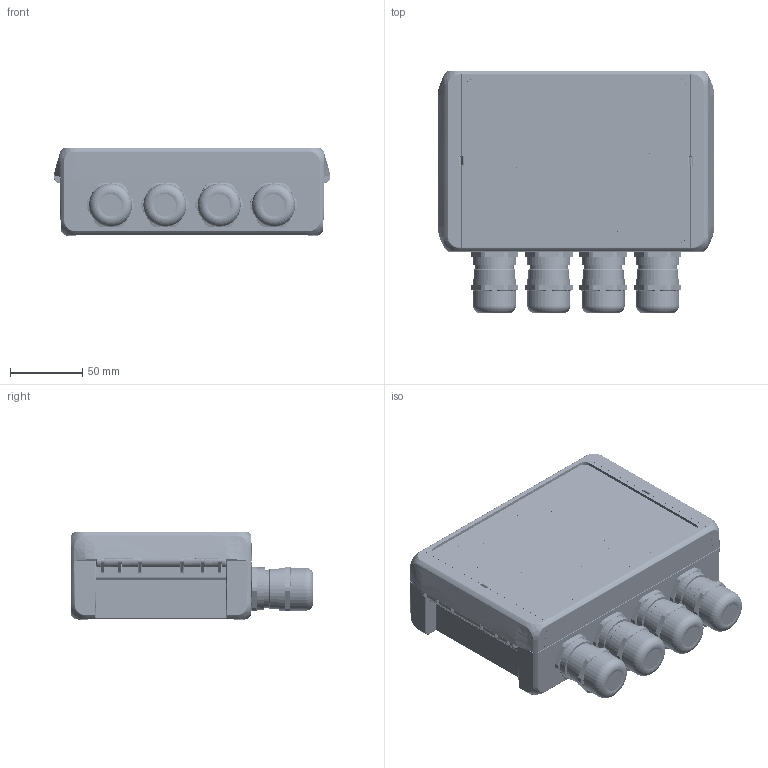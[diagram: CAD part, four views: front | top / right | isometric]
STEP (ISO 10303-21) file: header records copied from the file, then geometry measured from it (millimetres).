
FILE_DESCRIPTION(/* description */ ('FS10'),/* implementation_level */ '2;1');
FILE_NAME(/* name */ '2878010012599_A.stp',/* time_stamp */ '2026-06-18T21:33:00+02:00',/* author */ ('tokti'),/* organization */ (''),/* preprocessor_version */ 'ST-DEVELOPER v20.1',/* originating_system */ 'Autodesk Inventor 2026',/* authorisation */ '');
FILE_SCHEMA (('AUTOMOTIVE_DESIGN { 1 0 10303 214 3 1 1 }'));
Products named in the file (4): 2878010012599; 287898010012300; 287898990012596; 287898030012301
Assembly tree (6 placements, depth 2):
  2878010012599
    287898010012300
    287898990012596
    287898030012301  x4
Bounding box: 191 x 167.67 x 61 mm (x, y, z)
Volume: 406810 mm3; surface area: 259263.6 mm2
Topology: 9 solids, 9 shells, 7442 faces, 19624 edges, 12727 vertices
Faces by surface type: plane 3968, bspline 2149, cylinder 945, cone 236, sphere 76, torus 68
Full cylindrical faces by diameter (mm): 4 x15, 4.25 x4, 23 x4, 24.85 x4, 26.63 x4, 28.15 x4, 29.7 x12
Entity records: 322168 total; most frequent: CARTESIAN_POINT 149866, ORIENTED_EDGE 38176, DIRECTION 28210, EDGE_CURVE 19088, LINE 12464, VECTOR 12464, VERTEX_POINT 12427, AXIS2_PLACEMENT_3D 7873
